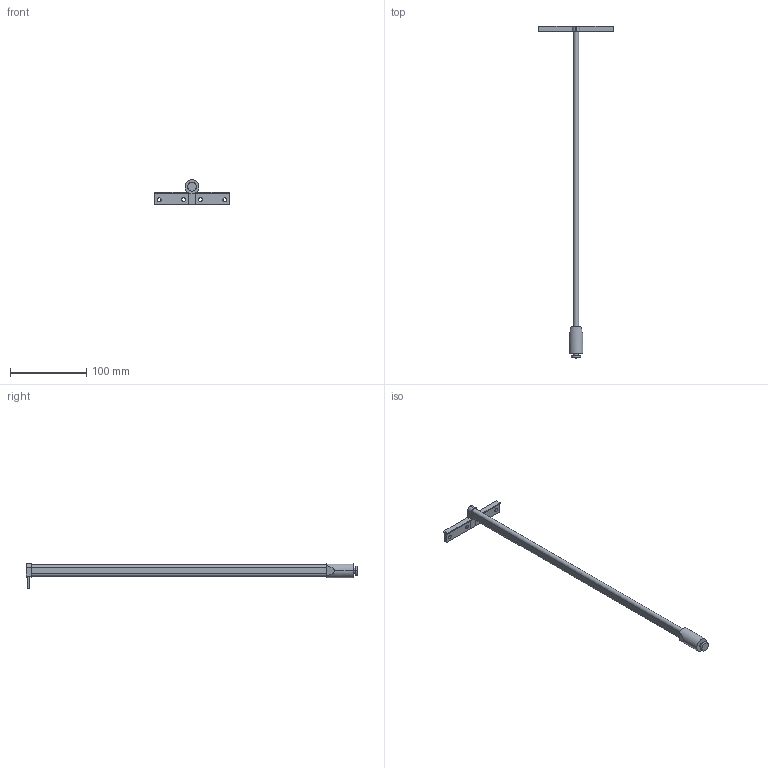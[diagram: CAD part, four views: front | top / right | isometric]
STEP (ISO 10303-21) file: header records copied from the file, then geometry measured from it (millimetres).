
FILE_DESCRIPTION (( 'STEP AP214' ), '1' );
FILE_NAME ('DWD-XP_Reling-Haengeregister_NL440_links.step', '2010-10-06T11:19:40', ( 'grass' ), ( '' ), 'SwSTEP 2.0', 'SolidWorks 2010', '' );
FILE_SCHEMA (( 'AUTOMOTIVE_DESIGN' ));
Length unit declared in the file: millimetre
Products named in the file (1): DWD-XP_Reling-Haengeregister_NL440_links
Bounding box: 97.9 x 434.3 x 32.15 mm (x, y, z)
Volume: 99308.8 mm3; surface area: 40707.9 mm2
Topology: 2 solids, 2 shells, 68 faces, 168 edges, 112 vertices
Faces by surface type: plane 40, cylinder 28
Entity records: 2087 total; most frequent: CARTESIAN_POINT 373, DIRECTION 354, ORIENTED_EDGE 336, EDGE_CURVE 168, AXIS2_PLACEMENT_3D 125, VERTEX_POINT 112, LINE 104, VECTOR 104
